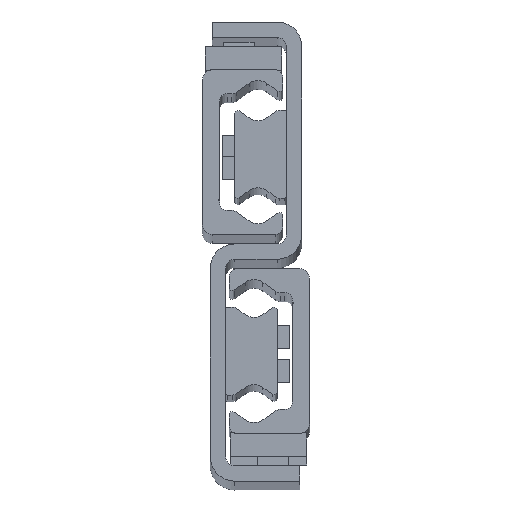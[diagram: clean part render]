
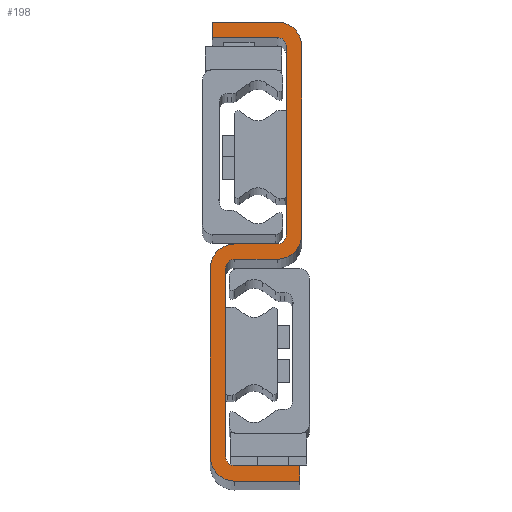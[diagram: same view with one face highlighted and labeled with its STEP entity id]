
A CAD part, top view. The second image highlights one B-rep face of the part: STEP entity #198.
In plain terms, the highlighted planar face has unit normal (0, 0, 1).
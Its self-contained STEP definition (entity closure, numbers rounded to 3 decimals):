
#198=ADVANCED_FACE('',(#681),#682,.T.);
#681=FACE_OUTER_BOUND('',#1459,.T.);
#682=PLANE('',#1460);
#1459=EDGE_LOOP('',(#2909,#2910,#2911,#2912,#2913,#2914,#2915,#2916,#2917,#2918,#2919,#2920,#2921,#2922,#2923,#2924,#2925,#2926,#2927,#2928));
#1460=AXIS2_PLACEMENT_3D('',#2929,#2930,#2931);
#2909=ORIENTED_EDGE('',*,*,#5081,.F.);
#2910=ORIENTED_EDGE('',*,*,#5139,.F.);
#2911=ORIENTED_EDGE('',*,*,#5136,.F.);
#2912=ORIENTED_EDGE('',*,*,#5133,.F.);
#2913=ORIENTED_EDGE('',*,*,#5130,.F.);
#2914=ORIENTED_EDGE('',*,*,#5127,.F.);
#2915=ORIENTED_EDGE('',*,*,#5124,.F.);
#2916=ORIENTED_EDGE('',*,*,#5121,.F.);
#2917=ORIENTED_EDGE('',*,*,#5118,.F.);
#2918=ORIENTED_EDGE('',*,*,#5115,.F.);
#2919=ORIENTED_EDGE('',*,*,#5112,.F.);
#2920=ORIENTED_EDGE('',*,*,#5109,.F.);
#2921=ORIENTED_EDGE('',*,*,#5106,.F.);
#2922=ORIENTED_EDGE('',*,*,#5103,.F.);
#2923=ORIENTED_EDGE('',*,*,#5100,.F.);
#2924=ORIENTED_EDGE('',*,*,#5097,.F.);
#2925=ORIENTED_EDGE('',*,*,#5094,.F.);
#2926=ORIENTED_EDGE('',*,*,#5091,.F.);
#2927=ORIENTED_EDGE('',*,*,#5088,.F.);
#2928=ORIENTED_EDGE('',*,*,#5085,.F.);
#2929=CARTESIAN_POINT('',(-14.,26.,1330.0));
#2930=DIRECTION('',(0.0,0.0,1.0));
#2931=DIRECTION('',(1.0,0.0,0.0));
#5081=EDGE_CURVE('',#6159,#6160,#6161,.T.);
#5085=EDGE_CURVE('',#6160,#6167,#6168,.T.);
#5088=EDGE_CURVE('',#6167,#6172,#6173,.T.);
#5091=EDGE_CURVE('',#6172,#6177,#6178,.T.);
#5094=EDGE_CURVE('',#6177,#6182,#6183,.T.);
#5097=EDGE_CURVE('',#6182,#6187,#6188,.T.);
#5100=EDGE_CURVE('',#6187,#6192,#6193,.T.);
#5103=EDGE_CURVE('',#6192,#6197,#6198,.T.);
#5106=EDGE_CURVE('',#6197,#6202,#6203,.T.);
#5109=EDGE_CURVE('',#6202,#6207,#6208,.T.);
#5112=EDGE_CURVE('',#6207,#6212,#6213,.T.);
#5115=EDGE_CURVE('',#6212,#6217,#6218,.T.);
#5118=EDGE_CURVE('',#6217,#6222,#6223,.T.);
#5121=EDGE_CURVE('',#6222,#6227,#6228,.T.);
#5124=EDGE_CURVE('',#6227,#6232,#6233,.T.);
#5127=EDGE_CURVE('',#6232,#6237,#6238,.T.);
#5130=EDGE_CURVE('',#6237,#6242,#6243,.T.);
#5133=EDGE_CURVE('',#6242,#6247,#6248,.T.);
#5136=EDGE_CURVE('',#6247,#6252,#6253,.T.);
#5139=EDGE_CURVE('',#6252,#6159,#6257,.T.);
#6159=VERTEX_POINT('',#7841);
#6160=VERTEX_POINT('',#7842);
#6161=LINE('',#7843,#7844);
#6167=VERTEX_POINT('',#7853);
#6168=CIRCLE('',#7854,2.5);
#6172=VERTEX_POINT('',#7859);
#6173=LINE('',#7860,#7861);
#6177=VERTEX_POINT('',#7867);
#6178=CIRCLE('',#7868,2.5);
#6182=VERTEX_POINT('',#7873);
#6183=LINE('',#7874,#7875);
#6187=VERTEX_POINT('',#7881);
#6188=LINE('',#7882,#7883);
#6192=VERTEX_POINT('',#7889);
#6193=LINE('',#7890,#7891);
#6197=VERTEX_POINT('',#7897);
#6198=CIRCLE('',#7898,6.5);
#6202=VERTEX_POINT('',#7903);
#6203=LINE('',#7904,#7905);
#6207=VERTEX_POINT('',#7911);
#6208=CIRCLE('',#7912,6.5);
#6212=VERTEX_POINT('',#7917);
#6213=LINE('',#7918,#7919);
#6217=VERTEX_POINT('',#7925);
#6218=CIRCLE('',#7926,2.5);
#6222=VERTEX_POINT('',#7931);
#6223=LINE('',#7932,#7933);
#6227=VERTEX_POINT('',#7939);
#6228=CIRCLE('',#7940,2.5);
#6232=VERTEX_POINT('',#7945);
#6233=LINE('',#7946,#7947);
#6237=VERTEX_POINT('',#7953);
#6238=LINE('',#7954,#7955);
#6242=VERTEX_POINT('',#7961);
#6243=LINE('',#7962,#7963);
#6247=VERTEX_POINT('',#7969);
#6248=CIRCLE('',#7970,6.5);
#6252=VERTEX_POINT('',#7975);
#6253=LINE('',#7976,#7977);
#6257=CIRCLE('',#7983,6.5);
#7841=CARTESIAN_POINT('',(-8.5,24.,1330.0));
#7842=CARTESIAN_POINT('',(-19.5,24.,1330.0));
#7843=CARTESIAN_POINT('',(-8.5,24.,1330.0));
#7844=VECTOR('',#9661,1.0);
#7853=CARTESIAN_POINT('',(-22.,21.5,1330.0));
#7854=AXIS2_PLACEMENT_3D('',#9665,#9666,#9667);
#7859=CARTESIAN_POINT('',(-22.,-27.5,1330.0));
#7860=CARTESIAN_POINT('',(-22.,-27.5,1330.0));
#7861=VECTOR('',#9672,1.0);
#7867=CARTESIAN_POINT('',(-19.5,-30.,1330.0));
#7868=AXIS2_PLACEMENT_3D('',#9675,#9676,#9677);
#7873=CARTESIAN_POINT('',(-2.5,-30.,1330.0));
#7874=CARTESIAN_POINT('',(-19.5,-30.,1330.0));
#7875=VECTOR('',#9682,1.0);
#7881=CARTESIAN_POINT('',(-2.5,-34.,1330.0));
#7882=CARTESIAN_POINT('',(-2.5,-34.,1330.0));
#7883=VECTOR('',#9685,1.0);
#7889=CARTESIAN_POINT('',(-19.5,-34.,1330.0));
#7890=CARTESIAN_POINT('',(-19.5,-34.,1330.0));
#7891=VECTOR('',#9688,1.0);
#7897=CARTESIAN_POINT('',(-26.,-27.5,1330.0));
#7898=AXIS2_PLACEMENT_3D('',#9691,#9692,#9693);
#7903=CARTESIAN_POINT('',(-26.,21.5,1330.0));
#7904=CARTESIAN_POINT('',(-26.,21.5,1330.0));
#7905=VECTOR('',#9698,1.0);
#7911=CARTESIAN_POINT('',(-19.5,28.,1330.0));
#7912=AXIS2_PLACEMENT_3D('',#9701,#9702,#9703);
#7917=CARTESIAN_POINT('',(-8.5,28.,1330.0));
#7918=CARTESIAN_POINT('',(-8.5,28.,1330.0));
#7919=VECTOR('',#9708,1.0);
#7925=CARTESIAN_POINT('',(-6.,30.5,1330.0));
#7926=AXIS2_PLACEMENT_3D('',#9711,#9712,#9713);
#7931=CARTESIAN_POINT('',(-6.,79.5,1330.0));
#7932=CARTESIAN_POINT('',(-6.,79.5,1330.0));
#7933=VECTOR('',#9718,1.0);
#7939=CARTESIAN_POINT('',(-8.5,82.,1330.0));
#7940=AXIS2_PLACEMENT_3D('',#9721,#9722,#9723);
#7945=CARTESIAN_POINT('',(-25.5,82.,1330.0));
#7946=CARTESIAN_POINT('',(-25.5,82.,1330.0));
#7947=VECTOR('',#9728,1.0);
#7953=CARTESIAN_POINT('',(-25.5,86.,1330.0));
#7954=CARTESIAN_POINT('',(-25.5,86.,1330.0));
#7955=VECTOR('',#9731,1.0);
#7961=CARTESIAN_POINT('',(-8.5,86.,1330.0));
#7962=CARTESIAN_POINT('',(-25.5,86.,1330.0));
#7963=VECTOR('',#9734,1.0);
#7969=CARTESIAN_POINT('',(-2.,79.5,1330.0));
#7970=AXIS2_PLACEMENT_3D('',#9737,#9738,#9739);
#7975=CARTESIAN_POINT('',(-2.,30.5,1330.0));
#7976=CARTESIAN_POINT('',(-2.,79.5,1330.0));
#7977=VECTOR('',#9744,1.0);
#7983=AXIS2_PLACEMENT_3D('',#9747,#9748,#9749);
#9661=DIRECTION('',(-1.0,0.,0.0));
#9665=CARTESIAN_POINT('',(-19.5,21.5,1330.0));
#9666=DIRECTION('',(0.0,0.0,1.0));
#9667=DIRECTION('',(1.0,0.0,0.0));
#9672=DIRECTION('',(-0.0,-1.0,-0.0));
#9675=CARTESIAN_POINT('',(-19.5,-27.5,1330.0));
#9676=DIRECTION('',(0.0,0.0,1.0));
#9677=DIRECTION('',(1.0,0.0,0.0));
#9682=DIRECTION('',(1.,0.,0.0));
#9685=DIRECTION('',(-0.0,-1.0,-0.0));
#9688=DIRECTION('',(-1.,0.,-0.0));
#9691=CARTESIAN_POINT('',(-19.5,-27.5,1330.0));
#9692=DIRECTION('',(0.0,0.0,-1.0));
#9693=DIRECTION('',(1.0,0.0,0.0));
#9698=DIRECTION('',(0.0,1.0,0.0));
#9701=CARTESIAN_POINT('',(-19.5,21.5,1330.0));
#9702=DIRECTION('',(0.0,0.0,-1.0));
#9703=DIRECTION('',(1.0,0.0,0.0));
#9708=DIRECTION('',(1.0,0.,0.0));
#9711=CARTESIAN_POINT('',(-8.5,30.5,1330.0));
#9712=DIRECTION('',(0.0,0.0,1.0));
#9713=DIRECTION('',(1.0,0.0,0.0));
#9718=DIRECTION('',(0.0,1.0,0.0));
#9721=CARTESIAN_POINT('',(-8.5,79.5,1330.0));
#9722=DIRECTION('',(0.0,0.0,1.0));
#9723=DIRECTION('',(1.0,0.0,0.0));
#9728=DIRECTION('',(-1.,0.,0.0));
#9731=DIRECTION('',(0.0,1.0,0.0));
#9734=DIRECTION('',(1.,0.,0.0));
#9737=CARTESIAN_POINT('',(-8.5,79.5,1330.0));
#9738=DIRECTION('',(0.0,0.0,-1.0));
#9739=DIRECTION('',(1.0,0.0,0.0));
#9744=DIRECTION('',(0.,-1.0,0.0));
#9747=CARTESIAN_POINT('',(-8.5,30.5,1330.0));
#9748=DIRECTION('',(0.0,0.0,-1.0));
#9749=DIRECTION('',(1.0,0.0,0.0));
